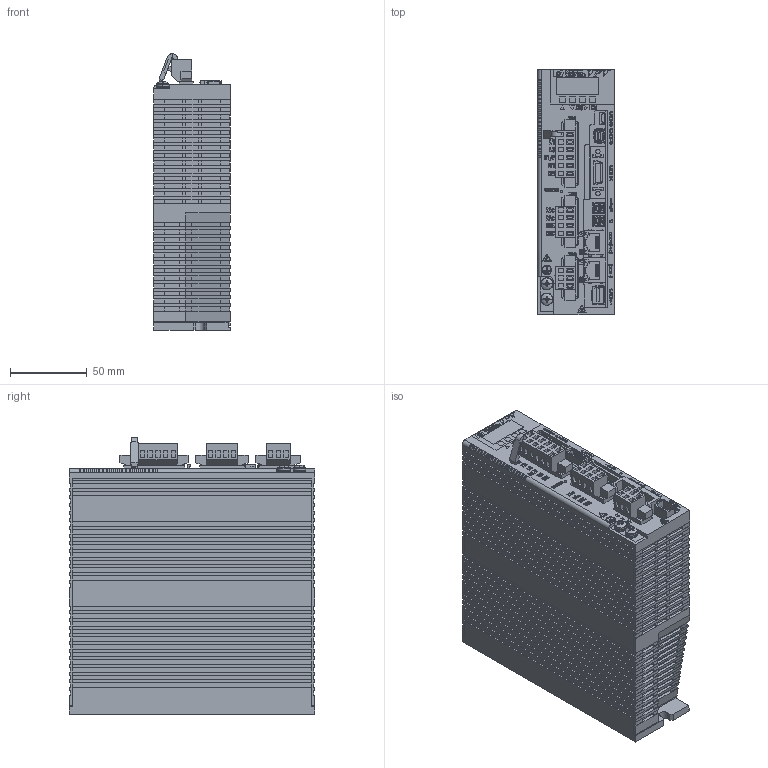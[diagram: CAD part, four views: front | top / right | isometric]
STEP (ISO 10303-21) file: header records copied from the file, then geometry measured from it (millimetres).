
FILE_DESCRIPTION (( 'STEP AP203' ), '1' );
FILE_NAME ('NCR-VD_Series(101-401)#SX-008580-00-01_STO.STEP', '2026-05-27T07:00:24', ( '' ), ( '' ), 'SwSTEP 2.0', 'SolidWorks 2024', '' );
FILE_SCHEMA (( 'CONFIG_CONTROL_DESIGN' ));
Products named in the file (1): NCR-VD_Series(101-401)#SX-008580-00-01_STO
Bounding box: 50 x 160 x 180.32 mm (x, y, z)
Volume: 1231819.5 mm3; surface area: 132220.7 mm2
Topology: 5 solids, 21 shells, 7055 faces, 19914 edges, 13194 vertices
Faces by surface type: plane 5954, bspline 532, cylinder 529, cone 24, torus 12, sphere 4
Entity records: 248125 total; most frequent: CARTESIAN_POINT 68069, ORIENTED_EDGE 39820, DIRECTION 32884, EDGE_CURVE 19910, VECTOR 17534, LINE 17534, VERTEX_POINT 13194, AXIS2_PLACEMENT_3D 7675
